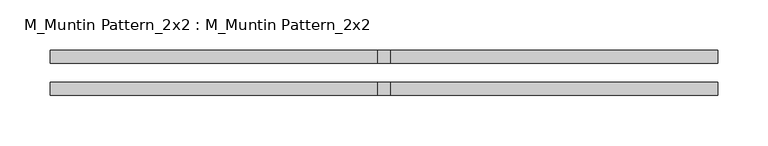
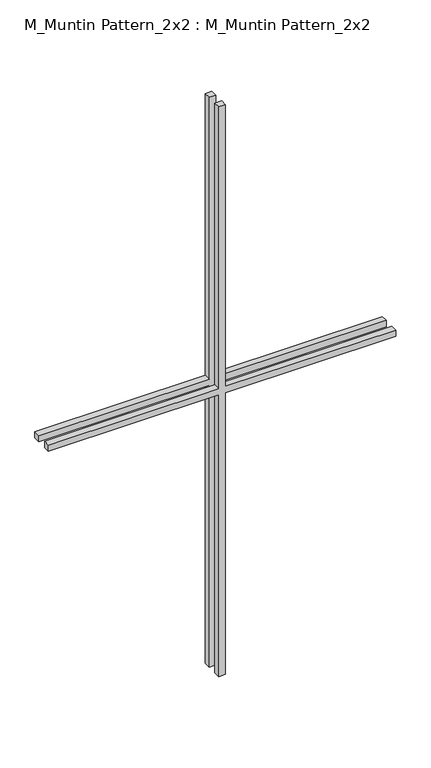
"""IFC4 building model written with IfcOpenShell, lengths in millimetres: proxy geometry, M_Muntin Pattern_2x2 : M_Muntin Pattern_2x2."""

from ifc_helpers import new_model, si_unit, frame, origin, place, context, project, spatial, polyline, outline, extrude, source, transform, mapped, element, save


def m_muntin_pattern_2x2_m_muntin_pattern_2x2_39445eea(model_context):
    return source(origin(), model_context, "Body", "SweptSolid", [
        extrude(outline(polyline([(581.5, -6.35), (581.5, -331.7375), (568.8, -331.7375), (568.8, -6.35), (0.0, -6.35), (0.0, 6.35), (568.8, 6.35), (568.8, 331.7375), (581.5, 331.7375), (581.5, 6.35), (1150.3, 6.35), (1150.3, -6.35), (581.5, -6.35)])), frame((0.0, 9.525, 0.0), z_axis=(0.0, 1.0, 0.0), x_axis=(0.0, 0.0, 1.0)), (0.0, 0.0, 1.0), 12.7),
        extrude(outline(polyline([(581.5, -6.35), (581.5, -331.7375), (568.8, -331.7375), (568.8, -6.35), (0.0, -6.35), (0.0, 6.35), (568.8, 6.35), (568.8, 331.7375), (581.5, 331.7375), (581.5, 6.35), (1150.3, 6.35), (1150.3, -6.35), (581.5, -6.35)])), frame((0.0, -22.225, 0.0), z_axis=(0.0, 1.0, 0.0), x_axis=(0.0, 0.0, 1.0)), (0.0, 0.0, 1.0), 12.7),
    ])


if __name__ == "__main__":
    model = new_model("IFC4")
    model_context = context("Model", 3, world=origin())
    ifc_project = project(units=[si_unit("LENGTHUNIT", "METRE", prefix="MILLI")], contexts=[model_context])
    site = spatial("IfcSite", under=ifc_project)
    building = spatial("IfcBuilding", under=site)
    placement = place(None, origin())
    m_muntin_pattern_2x2_m_muntin_pattern_2x2_shape = m_muntin_pattern_2x2_m_muntin_pattern_2x2_39445eea(model_context)
    element("IfcBuildingElementProxy", 1, Name="M_Muntin Pattern_2x2 : M_Muntin Pattern_2x2", ObjectType="M_Muntin Pattern_2x2 : M_Muntin Pattern_2x2", at=placement, inside=building, context=model_context, shape_type="MappedRepresentation", body=[
        mapped(m_muntin_pattern_2x2_m_muntin_pattern_2x2_shape, transform((0.0, 0.0, 0.0), x_axis=(1.0, 0.0, 0.0), y_axis=(0.0, 1.0, 0.0), z_axis=(0.0, 0.0, 1.0))),
    ])
    save(model, "model.ifc")
